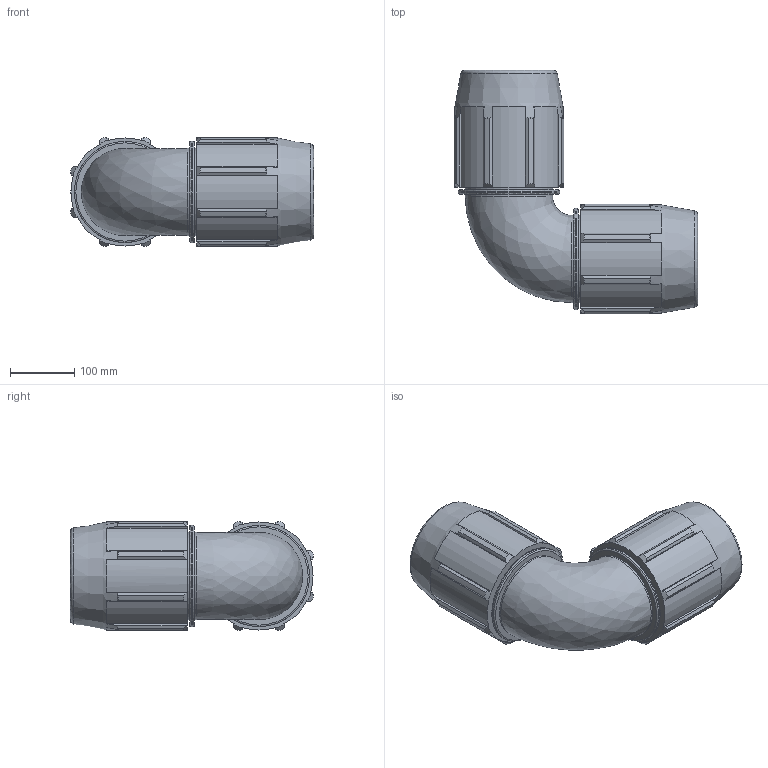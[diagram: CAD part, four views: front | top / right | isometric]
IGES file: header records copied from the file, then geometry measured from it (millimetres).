
Global section: file name: 0705M0040.ipt; native system: Autodesk Inventor 2019; preprocessor: unknown; author: KIM; date: 20210826.124617; units: inch
Bounding box: 379.08 x 379.08 x 170.4 mm (x, y, z)
Volume: 5345567 mm3; surface area: 529656 mm2
Topology: 1 solids, 1 shells, 162 faces, 465 edges, 315 vertices
Faces by surface type: plane 76, cylinder 38, cone 34, revolution 14
Full cylindrical faces by diameter (mm): 135.827 x4, 157.559 x2
